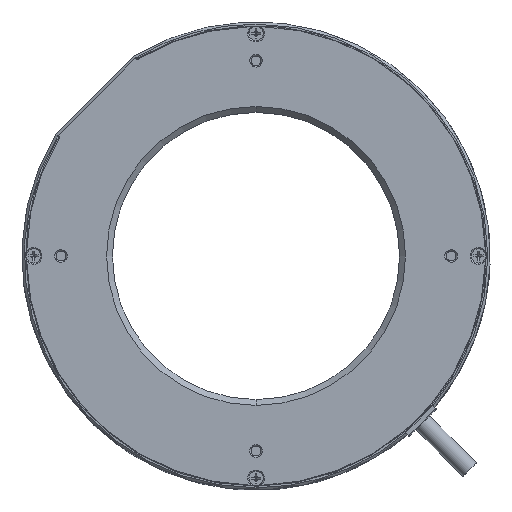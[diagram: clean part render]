
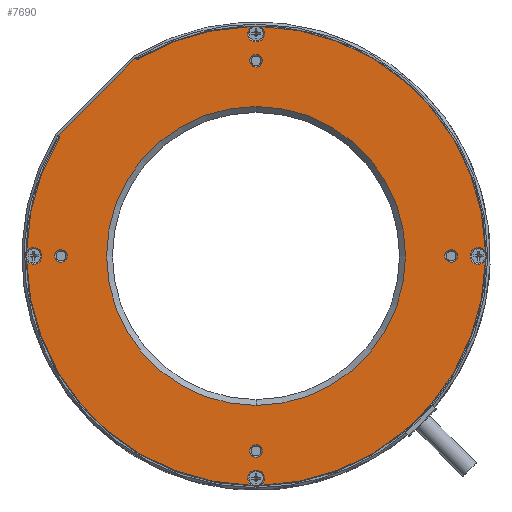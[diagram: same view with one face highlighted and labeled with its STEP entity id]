
A CAD part, top view. The second image highlights one B-rep face of the part: STEP entity #7690.
In plain terms, the highlighted planar face has unit normal (0, 0, 1).
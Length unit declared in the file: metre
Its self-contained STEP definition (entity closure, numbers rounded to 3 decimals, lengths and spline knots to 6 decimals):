
#1391=CARTESIAN_POINT('',(0.,0.,0.0036));
#1392=DIRECTION('',(0.,0.,-1.));
#1393=DIRECTION('',(0.,1.,0.));
#1394=AXIS2_PLACEMENT_3D('',#1391,#1392,#1393);
#1396=CARTESIAN_POINT('',(0.,0.,0.0036));
#1397=DIRECTION('',(0.,0.,-1.));
#1398=DIRECTION('',(0.,-1.,0.));
#1399=AXIS2_PLACEMENT_3D('',#1396,#1397,#1398);
#1401=CARTESIAN_POINT('',(0.,-0.05,0.0036));
#1402=DIRECTION('',(0.,0.,-1.));
#1403=DIRECTION('',(0.,-1.,0.));
#1404=AXIS2_PLACEMENT_3D('',#1401,#1402,#1403);
#1406=CARTESIAN_POINT('',(0.,-0.05,0.0036));
#1407=DIRECTION('',(0.,0.,-1.));
#1408=DIRECTION('',(0.,1.,0.));
#1409=AXIS2_PLACEMENT_3D('',#1406,#1407,#1408);
#1411=CARTESIAN_POINT('',(0.05,0.,0.0036));
#1412=DIRECTION('',(0.,0.,-1.));
#1413=DIRECTION('',(1.,0.,0.));
#1414=AXIS2_PLACEMENT_3D('',#1411,#1412,#1413);
#1416=CARTESIAN_POINT('',(0.05,0.,0.0036));
#1417=DIRECTION('',(0.,0.,-1.));
#1418=DIRECTION('',(-1.,0.,0.));
#1419=AXIS2_PLACEMENT_3D('',#1416,#1417,#1418);
#1421=CARTESIAN_POINT('',(0.,0.05,0.0036));
#1422=DIRECTION('',(0.,0.,-1.));
#1423=DIRECTION('',(0.,1.,0.));
#1424=AXIS2_PLACEMENT_3D('',#1421,#1422,#1423);
#1426=CARTESIAN_POINT('',(0.,0.05,0.0036));
#1427=DIRECTION('',(0.,0.,-1.));
#1428=DIRECTION('',(0.,-1.,0.));
#1429=AXIS2_PLACEMENT_3D('',#1426,#1427,#1428);
#1431=CARTESIAN_POINT('',(-0.05,0.,0.0036));
#1432=DIRECTION('',(0.,0.,-1.));
#1433=DIRECTION('',(-1.,0.,0.));
#1434=AXIS2_PLACEMENT_3D('',#1431,#1432,#1433);
#1436=CARTESIAN_POINT('',(-0.05,0.,0.0036));
#1437=DIRECTION('',(0.,0.,-1.));
#1438=DIRECTION('',(1.,0.,0.));
#1439=AXIS2_PLACEMENT_3D('',#1436,#1437,#1438);
#1441=CARTESIAN_POINT('',(0.,0.,0.0036));
#1442=DIRECTION('',(0.,0.,1.));
#1443=DIRECTION('',(-0.859,0.513,0.));
#1444=AXIS2_PLACEMENT_3D('',#1441,#1442,#1443);
#1446=CARTESIAN_POINT('',(-0.050912,0.030406,0.0036));
#1447=DIRECTION('',(0.,0.,-1.));
#1448=DIRECTION('',(0.707,0.707,0.));
#1449=AXIS2_PLACEMENT_3D('',#1446,#1447,#1448);
#1451=DIRECTION('',(0.707,-0.707,0.));
#1452=VECTOR('',#1451,0.000244);
#1453=CARTESIAN_POINT('',(-0.050731,0.030932,0.0036));
#1454=LINE('',#1453,#1452);
#1455=DIRECTION('',(-0.707,-0.707,0.));
#1456=VECTOR('',#1455,0.028);
#1457=CARTESIAN_POINT('',(-0.030932,0.050731,0.0036));
#1458=LINE('',#1457,#1456);
#1459=DIRECTION('',(-0.707,0.707,0.));
#1460=VECTOR('',#1459,0.000244);
#1461=CARTESIAN_POINT('',(-0.030759,0.050558,0.0036));
#1462=LINE('',#1461,#1460);
#1463=CARTESIAN_POINT('',(-0.030406,0.050912,0.0036));
#1464=DIRECTION('',(0.,0.,-1.));
#1465=DIRECTION('',(0.513,-0.859,0.));
#1466=AXIS2_PLACEMENT_3D('',#1463,#1464,#1465);
#1468=CARTESIAN_POINT('',(0.,0.,0.0036));
#1469=DIRECTION('',(0.,0.,1.));
#1470=DIRECTION('',(-0.02,1.,0.));
#1471=AXIS2_PLACEMENT_3D('',#1468,#1469,#1470);
#1473=CARTESIAN_POINT('',(0.,0.,0.0036));
#1474=DIRECTION('',(0.,0.,1.));
#1475=DIRECTION('',(1.,0.02,0.));
#1476=AXIS2_PLACEMENT_3D('',#1473,#1474,#1475);
#1478=CARTESIAN_POINT('',(0.,0.,0.0036));
#1479=DIRECTION('',(0.,0.,1.));
#1480=DIRECTION('',(0.02,-1.,0.));
#1481=AXIS2_PLACEMENT_3D('',#1478,#1479,#1480);
#1483=CARTESIAN_POINT('',(0.,0.,0.0036));
#1484=DIRECTION('',(0.,0.,1.));
#1485=DIRECTION('',(-1.,-0.02,0.));
#1486=AXIS2_PLACEMENT_3D('',#1483,#1484,#1485);
#2600=CARTESIAN_POINT('',(-0.057,0.,0.0036));
#2601=DIRECTION('',(0.,0.,-1.));
#2602=DIRECTION('',(-0.832,0.555,0.));
#2603=AXIS2_PLACEMENT_3D('',#2600,#2601,#2602);
#2932=CARTESIAN_POINT('',(0.,-0.057,0.0036));
#2933=DIRECTION('',(0.,0.,-1.));
#2934=DIRECTION('',(-0.555,-0.832,0.));
#2935=AXIS2_PLACEMENT_3D('',#2932,#2933,#2934);
#3257=CARTESIAN_POINT('',(0.057,0.,0.0036));
#3258=DIRECTION('',(0.,0.,-1.));
#3259=DIRECTION('',(0.832,-0.555,0.));
#3260=AXIS2_PLACEMENT_3D('',#3257,#3258,#3259);
#3589=CARTESIAN_POINT('',(0.,0.057,0.0036));
#3590=DIRECTION('',(0.,0.,-1.));
#3591=DIRECTION('',(0.555,0.832,0.));
#3592=AXIS2_PLACEMENT_3D('',#3589,#3590,#3591);
#4485=CARTESIAN_POINT('',(-0.050482,0.030149,0.0036));
#4486=CARTESIAN_POINT('',(-0.058788,0.001194,0.0036));
#4487=VERTEX_POINT('',#4485);
#4488=VERTEX_POINT('',#4486);
#4489=CARTESIAN_POINT('',(-0.050558,0.030759,0.0036));
#4490=VERTEX_POINT('',#4489);
#4491=CARTESIAN_POINT('',(-0.050731,0.030932,0.0036));
#4492=VERTEX_POINT('',#4491);
#4493=CARTESIAN_POINT('',(-0.030932,0.050731,0.0036));
#4494=VERTEX_POINT('',#4493);
#4495=CARTESIAN_POINT('',(-0.030759,0.050558,0.0036));
#4496=VERTEX_POINT('',#4495);
#4497=CARTESIAN_POINT('',(-0.030149,0.050482,0.0036));
#4498=VERTEX_POINT('',#4497);
#4499=CARTESIAN_POINT('',(-0.001194,0.058788,0.0036));
#4500=VERTEX_POINT('',#4499);
#4501=CARTESIAN_POINT('',(0.058788,0.001194,0.0036));
#4502=CARTESIAN_POINT('',(0.001194,0.058788,0.0036));
#4503=VERTEX_POINT('',#4501);
#4504=VERTEX_POINT('',#4502);
#4505=CARTESIAN_POINT('',(0.001194,-0.058788,0.0036));
#4506=CARTESIAN_POINT('',(0.058788,-0.001194,0.0036));
#4507=VERTEX_POINT('',#4505);
#4508=VERTEX_POINT('',#4506);
#4509=CARTESIAN_POINT('',(-0.058788,-0.001194,0.0036));
#4510=CARTESIAN_POINT('',(-0.001194,-0.058788,0.0036));
#4511=VERTEX_POINT('',#4509);
#4512=VERTEX_POINT('',#4510);
#4513=CARTESIAN_POINT('',(-0.0484,0.,0.0036));
#4514=CARTESIAN_POINT('',(-0.0516,0.,0.0036));
#4515=VERTEX_POINT('',#4513);
#4516=VERTEX_POINT('',#4514);
#4517=CARTESIAN_POINT('',(0.,0.0484,0.0036));
#4518=CARTESIAN_POINT('',(0.,0.0516,0.0036));
#4519=VERTEX_POINT('',#4517);
#4520=VERTEX_POINT('',#4518);
#4521=CARTESIAN_POINT('',(0.0484,0.,0.0036));
#4522=CARTESIAN_POINT('',(0.0516,0.,0.0036));
#4523=VERTEX_POINT('',#4521);
#4524=VERTEX_POINT('',#4522);
#4525=CARTESIAN_POINT('',(0.,-0.0484,0.0036));
#4526=CARTESIAN_POINT('',(0.,-0.0516,0.0036));
#4527=VERTEX_POINT('',#4525);
#4528=VERTEX_POINT('',#4526);
#4529=CARTESIAN_POINT('',(0.,-0.0383,0.0036));
#4530=CARTESIAN_POINT('',(0.,0.0383,0.0036));
#4531=VERTEX_POINT('',#4529);
#4532=VERTEX_POINT('',#4530);
#7627=CARTESIAN_POINT('',(0.,0.,0.0036));
#7628=DIRECTION('',(0.,0.,-1.));
#7629=DIRECTION('',(0.,-1.,0.));
#7630=AXIS2_PLACEMENT_3D('',#7627,#7628,#7629);
#7631=PLANE('',#7630);
#7633=ORIENTED_EDGE('',*,*,#7632,.F.);
#7635=ORIENTED_EDGE('',*,*,#7634,.F.);
#7637=ORIENTED_EDGE('',*,*,#7636,.F.);
#7639=ORIENTED_EDGE('',*,*,#7638,.F.);
#7641=ORIENTED_EDGE('',*,*,#7640,.F.);
#7643=ORIENTED_EDGE('',*,*,#7642,.F.);
#7645=ORIENTED_EDGE('',*,*,#7644,.F.);
#7647=ORIENTED_EDGE('',*,*,#7646,.F.);
#7649=ORIENTED_EDGE('',*,*,#7648,.F.);
#7651=ORIENTED_EDGE('',*,*,#7650,.F.);
#7653=ORIENTED_EDGE('',*,*,#7652,.F.);
#7655=ORIENTED_EDGE('',*,*,#7654,.F.);
#7657=ORIENTED_EDGE('',*,*,#7656,.F.);
#7659=ORIENTED_EDGE('',*,*,#7658,.F.);
#7660=EDGE_LOOP('',(#7633,#7635,#7637,#7639,#7641,#7643,#7645,#7647,#7649,#7651,
#7653,#7655,#7657,#7659));
#7661=FACE_OUTER_BOUND('',#7660,.F.);
#7663=ORIENTED_EDGE('',*,*,#7662,.F.);
#7665=ORIENTED_EDGE('',*,*,#7664,.F.);
#7666=EDGE_LOOP('',(#7663,#7665));
#7667=FACE_BOUND('',#7666,.F.);
#7669=ORIENTED_EDGE('',*,*,#7668,.F.);
#7671=ORIENTED_EDGE('',*,*,#7670,.F.);
#7672=EDGE_LOOP('',(#7669,#7671));
#7673=FACE_BOUND('',#7672,.F.);
#7675=ORIENTED_EDGE('',*,*,#7674,.F.);
#7677=ORIENTED_EDGE('',*,*,#7676,.F.);
#7678=EDGE_LOOP('',(#7675,#7677));
#7679=FACE_BOUND('',#7678,.F.);
#7681=ORIENTED_EDGE('',*,*,#7680,.F.);
#7683=ORIENTED_EDGE('',*,*,#7682,.F.);
#7684=EDGE_LOOP('',(#7681,#7683));
#7685=FACE_BOUND('',#7684,.F.);
#7686=ORIENTED_EDGE('',*,*,#7620,.F.);
#7687=ORIENTED_EDGE('',*,*,#7606,.F.);
#7688=EDGE_LOOP('',(#7686,#7687));
#7689=FACE_BOUND('',#7688,.F.);
#7690=ADVANCED_FACE('',(#7661,#7667,#7673,#7679,#7685,#7689),#7631,.F.);
#1395=CIRCLE('',#1394,0.0383);
#1400=CIRCLE('',#1399,0.0383);
#1405=CIRCLE('',#1404,0.0016);
#1410=CIRCLE('',#1409,0.0016);
#1415=CIRCLE('',#1414,0.0016);
#1420=CIRCLE('',#1419,0.0016);
#1425=CIRCLE('',#1424,0.0016);
#1430=CIRCLE('',#1429,0.0016);
#1435=CIRCLE('',#1434,0.0016);
#1440=CIRCLE('',#1439,0.0016);
#1445=CIRCLE('',#1444,0.0588);
#1450=CIRCLE('',#1449,0.0005);
#1467=CIRCLE('',#1466,0.0005);
#1472=CIRCLE('',#1471,0.0588);
#1477=CIRCLE('',#1476,0.0588);
#1482=CIRCLE('',#1481,0.0588);
#1487=CIRCLE('',#1486,0.0588);
#2604=CIRCLE('',#2603,0.00215);
#2936=CIRCLE('',#2935,0.00215);
#3261=CIRCLE('',#3260,0.00215);
#3593=CIRCLE('',#3592,0.00215);
#7606=EDGE_CURVE('',#4531,#4532,#1400,.T.);
#7620=EDGE_CURVE('',#4532,#4531,#1395,.T.);
#7632=EDGE_CURVE('',#4488,#4511,#2604,.T.);
#7634=EDGE_CURVE('',#4487,#4488,#1445,.T.);
#7636=EDGE_CURVE('',#4490,#4487,#1450,.T.);
#7638=EDGE_CURVE('',#4492,#4490,#1454,.T.);
#7640=EDGE_CURVE('',#4494,#4492,#1458,.T.);
#7642=EDGE_CURVE('',#4496,#4494,#1462,.T.);
#7644=EDGE_CURVE('',#4498,#4496,#1467,.T.);
#7646=EDGE_CURVE('',#4500,#4498,#1472,.T.);
#7648=EDGE_CURVE('',#4504,#4500,#3593,.T.);
#7650=EDGE_CURVE('',#4503,#4504,#1477,.T.);
#7652=EDGE_CURVE('',#4508,#4503,#3261,.T.);
#7654=EDGE_CURVE('',#4507,#4508,#1482,.T.);
#7656=EDGE_CURVE('',#4512,#4507,#2936,.T.);
#7658=EDGE_CURVE('',#4511,#4512,#1487,.T.);
#7662=EDGE_CURVE('',#4528,#4527,#1405,.T.);
#7664=EDGE_CURVE('',#4527,#4528,#1410,.T.);
#7668=EDGE_CURVE('',#4524,#4523,#1415,.T.);
#7670=EDGE_CURVE('',#4523,#4524,#1420,.T.);
#7674=EDGE_CURVE('',#4520,#4519,#1425,.T.);
#7676=EDGE_CURVE('',#4519,#4520,#1430,.T.);
#7680=EDGE_CURVE('',#4516,#4515,#1435,.T.);
#7682=EDGE_CURVE('',#4515,#4516,#1440,.T.);
